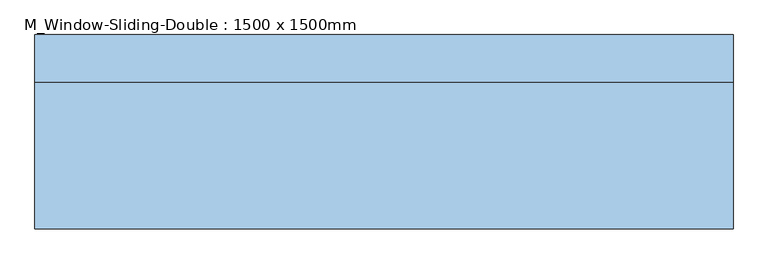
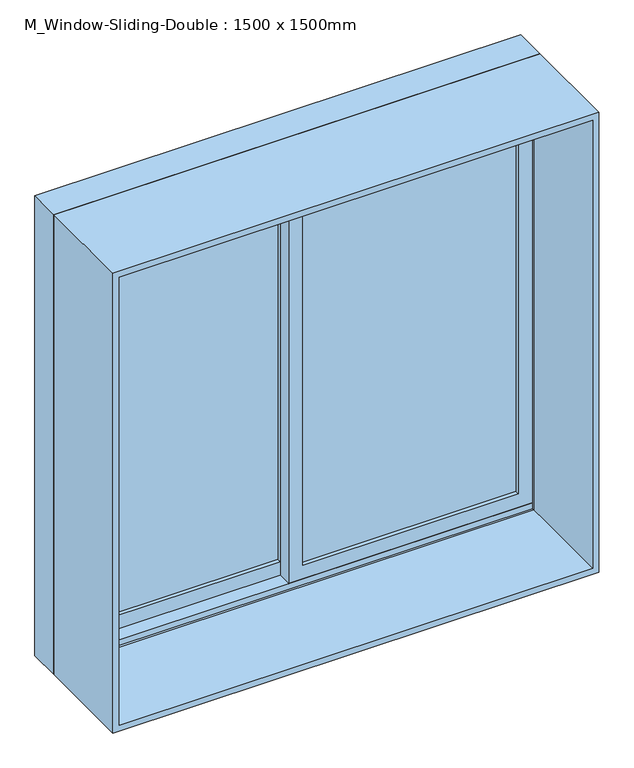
"""IFC4 building model written with IfcOpenShell, lengths in millimetres: window geometry, M_Window-Sliding-Double : 1500 x 1500mm."""

from ifc_helpers import new_model, si_unit, frame, origin, place, context, project, spatial, polyline, outline, extrude, faceted_brep, source, transform, mapped, element, save


def m_window_sliding_double_1500_x_1500mm_8cf3a065(model_context):
    return source(origin(), model_context, "Body", "SolidModel", [
        faceted_brep([(-750.0, 112.64, 900.0), (-750.0, 214.24, 900.0), (750.0, 214.24, 900.0), (750.0, 112.64, 900.0), (-709.0778905, 214.24, 2359.0778905), (-709.0778905, 207.89, 2359.0778905), (-709.0778905, 207.89, 919.05), (-709.0778905, 214.24, 919.05), (709.0778905, 207.89, 2359.0778905), (709.0778905, 207.89, 919.05), (730.95, 207.89, 919.05), (730.95, 207.89, 2380.95), (-730.95, 207.89, 2380.95), (-730.95, 207.89, 919.05), (-730.95, 112.64, 2380.95), (-730.95, 112.64, 919.05), (-730.95, 118.99, 919.05), (-730.95, 118.99, 938.1), (-730.95, 163.44, 938.1), (-730.95, 163.44, 919.05), (750.0, 112.64, 2400.0), (-750.0, 112.64, 2400.0), (730.95, 112.64, 2380.95), (730.95, 112.64, 919.05), (-750.0, 214.24, 2400.0), (750.0, 214.24, 2400.0), (709.0778905, 214.24, 919.05), (709.0778905, 214.24, 2359.0778905), (730.95, 163.44, 919.05), (730.95, 163.44, 938.1), (730.95, 118.99, 938.1), (730.95, 118.99, 919.05)], [[[0, 1, 2, 3]], [[4, 5, 6, 7]], [[5, 8, 9, 10, 11, 12, 13, 6]], [[12, 14, 15, 16, 17, 18, 19, 13]], [[0, 3, 20, 21], [22, 23, 15, 14]], [[24, 1, 0, 21]], [[2, 1, 24, 25], [4, 7, 26, 27]], [[5, 4, 27, 8]], [[12, 11, 22, 14]], [[21, 20, 25, 24]], [[8, 27, 26, 9]], [[22, 11, 10, 28, 29, 30, 31, 23]], [[20, 3, 2, 25]], [[26, 7, 6, 13, 19, 28, 10, 9]], [[28, 19, 18, 29]], [[29, 18, 17, 30]], [[30, 17, 16, 31]], [[15, 23, 31, 16]]]),
        extrude(outline(polyline([(2400.0, -750.0), (900.0, -750.0), (900.0, 750.0), (2400.0, 750.0), (2400.0, -750.0)]), holes=[polyline([(2380.95, 730.95), (919.05, 730.95), (919.05, -730.95), (2380.95, -730.95), (2380.95, 730.95)])]), frame((0.0, -202.81, 0.0), z_axis=(0.0, 1.0, 0.0), x_axis=(0.0, 0.0, 1.0)), (0.0, 0.0, 1.0), 315.45),
        extrude(outline(polyline([(686.5, 150.74), (686.5, 144.39), (22.225, 144.39), (22.225, 150.74), (686.5, 150.74)])), frame((0.0, 0.0, 982.55), z_axis=(0.0, 0.0, 1.0), x_axis=(1.0, 0.0, 0.0)), (0.0, 0.0, 1.0), 1353.95),
        extrude(outline(polyline([(686.5, 138.04), (686.5, 131.69), (22.225, 131.69), (22.225, 138.04), (686.5, 138.04)])), frame((0.0, 0.0, 982.55), z_axis=(0.0, 0.0, 1.0), x_axis=(1.0, 0.0, 0.0)), (0.0, 0.0, 1.0), 1353.95),
        extrude(outline(polyline([(-22.225, 195.19), (-22.225, 188.84), (-686.5, 188.84), (-686.5, 195.19), (-22.225, 195.19)])), frame((0.0, 0.0, 982.55), z_axis=(0.0, 0.0, 1.0), x_axis=(1.0, 0.0, 0.0)), (0.0, 0.0, 1.0), 1353.95),
        extrude(outline(polyline([(-22.225, 182.49), (-22.225, 176.14), (-686.5, 176.14), (-686.5, 182.49), (-22.225, 182.49)])), frame((0.0, 0.0, 982.55), z_axis=(0.0, 0.0, 1.0), x_axis=(1.0, 0.0, 0.0)), (0.0, 0.0, 1.0), 1353.95),
        extrude(outline(polyline([(919.05, -730.95), (919.05, 22.225), (2380.95, 22.225), (2380.95, -730.95), (919.05, -730.95)]), holes=[polyline([(2336.5, -22.225), (982.55, -22.225), (982.55, -686.5), (2336.5, -686.5), (2336.5, -22.225)])]), frame((0.0, 163.44, 0.0), z_axis=(0.0, 1.0, 0.0), x_axis=(0.0, 0.0, 1.0)), (0.0, 0.0, 1.0), 44.45),
        extrude(outline(polyline([(938.1, 730.95), (2380.95, 730.95), (2380.95, -22.225), (938.1, -22.225), (938.1, 730.95)]), holes=[polyline([(982.55, 22.225), (2336.5, 22.225), (2336.5, 686.5), (982.55, 686.5), (982.55, 22.225)])]), frame((0.0, 118.99, 0.0), z_axis=(0.0, 1.0, 0.0), x_axis=(0.0, 0.0, 1.0)), (0.0, 0.0, 1.0), 44.45),
    ])


if __name__ == "__main__":
    model = new_model("IFC4")
    model_context = context("Model", 3, world=origin())
    ifc_project = project(units=[si_unit("LENGTHUNIT", "METRE", prefix="MILLI")], contexts=[model_context])
    site = spatial("IfcSite", under=ifc_project)
    building = spatial("IfcBuilding", under=site)
    placement = place(None, origin())
    m_window_sliding_double_1500_x_1500mm_shape = m_window_sliding_double_1500_x_1500mm_8cf3a065(model_context)
    element("IfcWindow", 1, ObjectType="M_Window-Sliding-Double : 1500 x 1500mm", at=placement, inside=building, context=model_context, shape_type="MappedRepresentation", body=[
        mapped(m_window_sliding_double_1500_x_1500mm_shape, transform((0.0, 0.0, 0.0), x_axis=(1.0, 0.0, 0.0), y_axis=(0.0, 1.0, 0.0), z_axis=(0.0, 0.0, 1.0))),
    ])
    save(model, "model.ifc")
